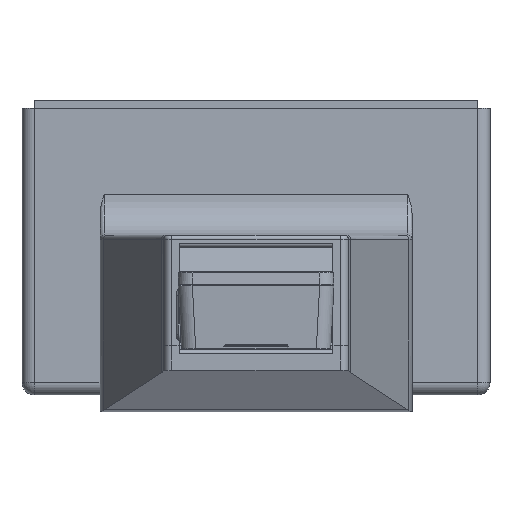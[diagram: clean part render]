
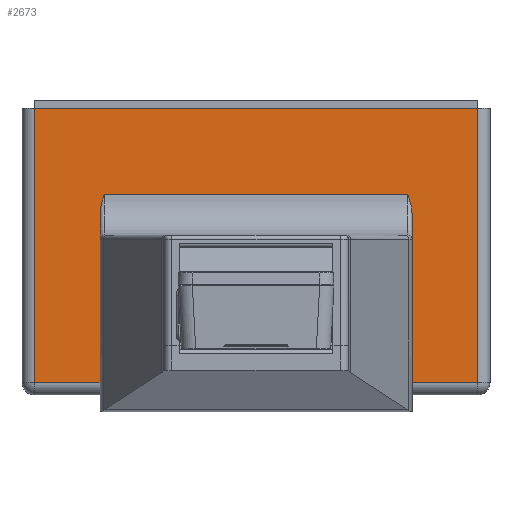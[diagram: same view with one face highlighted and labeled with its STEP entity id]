
A CAD part, top view. The second image highlights one B-rep face of the part: STEP entity #2673.
In plain terms, the highlighted planar face has unit normal (0, 0, 1).
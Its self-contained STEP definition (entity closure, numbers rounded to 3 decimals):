
#45=DIRECTION('',(0.,-1.,0.));
#46=VECTOR('',#45,41.256);
#47=CARTESIAN_POINT('',(38.,48.417,-101.));
#48=LINE('',#47,#46);
#350=DIRECTION('',(0.,1.,0.));
#351=VECTOR('',#350,41.256);
#352=CARTESIAN_POINT('',(-38.,7.161,-101.));
#353=LINE('',#352,#351);
#540=DIRECTION('',(1.,0.,0.));
#541=VECTOR('',#540,108.);
#542=CARTESIAN_POINT('',(-54.,74.,-101.));
#543=LINE('',#542,#541);
#601=DIRECTION('',(1.,0.,0.));
#602=VECTOR('',#601,16.);
#603=CARTESIAN_POINT('',(-54.,7.161,-101.));
#604=LINE('',#603,#602);
#605=DIRECTION('',(0.,1.,0.));
#606=VECTOR('',#605,66.839);
#607=CARTESIAN_POINT('',(-54.,7.161,-101.));
#608=LINE('',#607,#606);
#609=DIRECTION('',(0.,-1.,0.));
#610=VECTOR('',#609,66.839);
#611=CARTESIAN_POINT('',(54.,74.,-101.));
#612=LINE('',#611,#610);
#613=DIRECTION('',(1.,0.,0.));
#614=VECTOR('',#613,16.);
#615=CARTESIAN_POINT('',(38.,7.161,-101.));
#616=LINE('',#615,#614);
#617=DIRECTION('',(-1.,0.,0.));
#618=VECTOR('',#617,74.);
#619=CARTESIAN_POINT('',(37.,53.,-101.));
#620=LINE('',#619,#618);
#707=CARTESIAN_POINT('',(37.,53.,-101.));
#708=CARTESIAN_POINT('',(37.11,52.652,-101.));
#709=CARTESIAN_POINT('',(37.324,51.975,-101.));
#710=CARTESIAN_POINT('',(37.603,51.008,-101.));
#711=CARTESIAN_POINT('',(37.821,50.092,-101.));
#712=CARTESIAN_POINT('',(37.964,49.225,-101.));
#713=CARTESIAN_POINT('',(38.,48.681,-101.));
#714=CARTESIAN_POINT('',(38.,48.417,-101.));
#1285=CARTESIAN_POINT('',(-38.,48.417,-101.));
#1286=CARTESIAN_POINT('',(-38.,48.68,-101.));
#1287=CARTESIAN_POINT('',(-37.964,49.224,-101.));
#1288=CARTESIAN_POINT('',(-37.821,50.097,-101.));
#1289=CARTESIAN_POINT('',(-37.601,51.017,-101.));
#1290=CARTESIAN_POINT('',(-37.322,51.982,-101.));
#1291=CARTESIAN_POINT('',(-37.109,52.655,-101.));
#1292=CARTESIAN_POINT('',(-37.,53.,-101.));
#1840=CARTESIAN_POINT('',(38.,48.417,-101.));
#1841=VERTEX_POINT('',#1840);
#1842=CARTESIAN_POINT('',(37.,53.,-101.));
#1843=VERTEX_POINT('',#1842);
#1844=CARTESIAN_POINT('',(-37.,53.,-101.));
#1845=VERTEX_POINT('',#1844);
#1846=CARTESIAN_POINT('',(-38.,48.417,-101.));
#1847=VERTEX_POINT('',#1846);
#1849=CARTESIAN_POINT('',(-54.,74.,-101.));
#1851=VERTEX_POINT('',#1849);
#1856=CARTESIAN_POINT('',(54.,74.,-101.));
#1858=VERTEX_POINT('',#1856);
#1868=CARTESIAN_POINT('',(-54.,7.161,-101.));
#1869=CARTESIAN_POINT('',(-38.,7.161,-101.));
#1870=VERTEX_POINT('',#1868);
#1871=VERTEX_POINT('',#1869);
#1890=CARTESIAN_POINT('',(54.,7.161,-101.));
#1891=VERTEX_POINT('',#1890);
#1892=CARTESIAN_POINT('',(38.,7.161,-101.));
#1893=VERTEX_POINT('',#1892);
#2652=CARTESIAN_POINT('',(-74.,74.,-101.));
#2653=DIRECTION('',(0.,0.,1.));
#2654=DIRECTION('',(1.,0.,0.));
#2655=AXIS2_PLACEMENT_3D('',#2652,#2653,#2654);
#2656=PLANE('',#2655);
#2657=ORIENTED_EDGE('',*,*,#2612,.F.);
#2658=ORIENTED_EDGE('',*,*,#2586,.T.);
#2659=ORIENTED_EDGE('',*,*,#2565,.T.);
#2661=ORIENTED_EDGE('',*,*,#2660,.T.);
#2662=ORIENTED_EDGE('',*,*,#2643,.F.);
#2663=ORIENTED_EDGE('',*,*,#1958,.F.);
#2665=ORIENTED_EDGE('',*,*,#2664,.F.);
#2667=ORIENTED_EDGE('',*,*,#2666,.T.);
#2669=ORIENTED_EDGE('',*,*,#2668,.F.);
#2670=ORIENTED_EDGE('',*,*,#2321,.F.);
#2671=EDGE_LOOP('',(#2657,#2658,#2659,#2661,#2662,#2663,#2665,#2667,#2669,
#2670));
#2672=FACE_OUTER_BOUND('',#2671,.F.);
#2673=ADVANCED_FACE('',(#2672),#2656,.T.);
#715=B_SPLINE_CURVE_WITH_KNOTS('',3,(#707,#708,#709,#710,#711,#712,#713,#714),
.UNSPECIFIED.,.F.,.F.,(4,1,1,1,1,4),(0.,0.2,0.4,0.6,0.8,1.),
.UNSPECIFIED.);
#1293=B_SPLINE_CURVE_WITH_KNOTS('',3,(#1285,#1286,#1287,#1288,#1289,#1290,#1291,
#1292),.UNSPECIFIED.,.F.,.F.,(4,1,1,1,1,4),(0.,0.2,0.4,0.6,0.8,1.),
.UNSPECIFIED.);
#1958=EDGE_CURVE('',#1841,#1893,#48,.T.);
#2321=EDGE_CURVE('',#1871,#1847,#353,.T.);
#2565=EDGE_CURVE('',#1851,#1858,#543,.T.);
#2586=EDGE_CURVE('',#1870,#1851,#608,.T.);
#2612=EDGE_CURVE('',#1870,#1871,#604,.T.);
#2643=EDGE_CURVE('',#1893,#1891,#616,.T.);
#2660=EDGE_CURVE('',#1858,#1891,#612,.T.);
#2664=EDGE_CURVE('',#1843,#1841,#715,.T.);
#2666=EDGE_CURVE('',#1843,#1845,#620,.T.);
#2668=EDGE_CURVE('',#1847,#1845,#1293,.T.);
